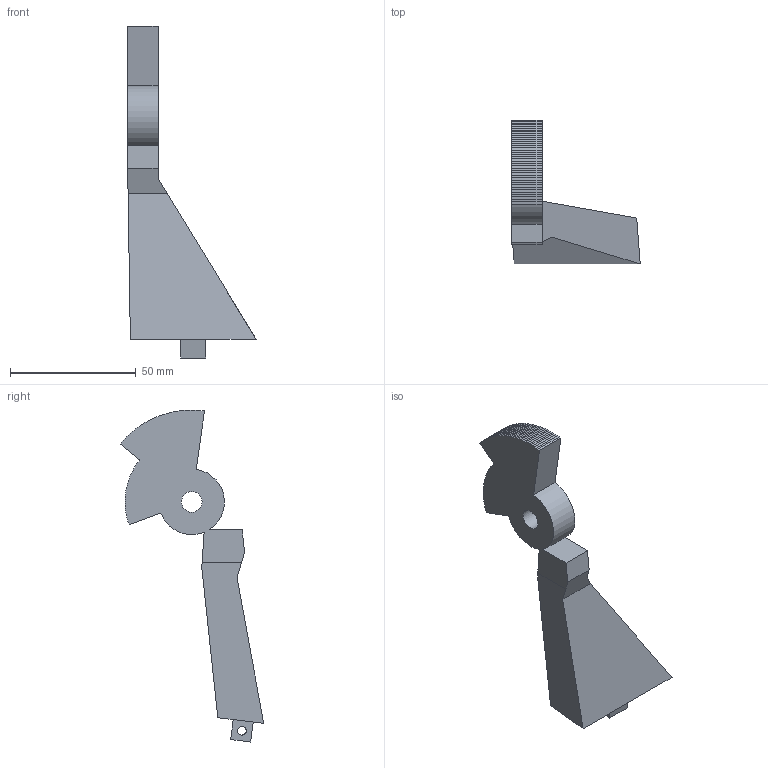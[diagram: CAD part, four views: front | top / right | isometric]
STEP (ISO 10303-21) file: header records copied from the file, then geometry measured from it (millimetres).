
FILE_DESCRIPTION(('Open CASCADE Model'),'2;1');
FILE_NAME('Open CASCADE Shape Model','2026-10-16T05:25:09',('Author'),( 'Open CASCADE'),'Open CASCADE STEP processor 7.9','Open CASCADE 7.9' ,'Unknown');
FILE_SCHEMA(('AUTOMOTIVE_DESIGN { 1 0 10303 214 1 1 1 1 }'));
Length unit declared in the file: millimetre
Products named in the file (1): Open CASCADE STEP translator 7.9 27
Bounding box: 50.99 x 56.96 x 131.91 mm (x, y, z)
Volume: 50177.2 mm3; surface area: 13174.7 mm2
Topology: 1 solids, 1 shells, 100 faces, 291 edges, 194 vertices
Faces by surface type: plane 96, cylinder 4
Full cylindrical faces by diameter (mm): 3.4 x1, 8.2 x1
Entity records: 7005 total; most frequent: CARTESIAN_POINT 1243, DIRECTION 1028, LINE 806, VECTOR 806, ORIENTED_EDGE 582, PCURVE 582, DEFINITIONAL_REPRESENTATION 582, EDGE_CURVE 291
